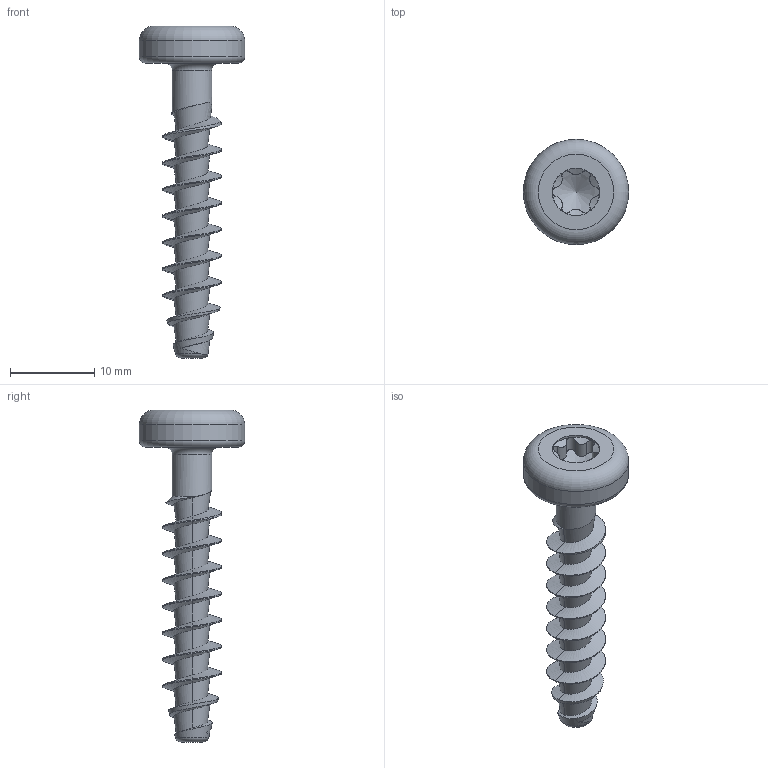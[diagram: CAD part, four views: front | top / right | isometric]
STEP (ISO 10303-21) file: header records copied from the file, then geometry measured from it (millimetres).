
FILE_DESCRIPTION(/* description */ (''),/* implementation_level */ '2;1');
FILE_NAME(/* name */ 'KN1039-STS-70x35-T30.step',/* time_stamp */ '2017-10-17T13:46:06+02:00',/* author */ (''),/* organization */ (''),/* preprocessor_version */ 'ST-DEVELOPER v16',/* originating_system */ 'SIEMENS PLM Software NX 10.0',/* authorisation */ '');
FILE_SCHEMA (('AUTOMOTIVE_DESIGN { 1 0 10303 214 3 1 1 1 }'));
Length unit declared in the file: millimetre
Products named in the file (1): KN1039-STS-70x35-T30
Bounding box: 12.5 x 12.5 x 39.4 mm (x, y, z)
Volume: 1034.9 mm3; surface area: 1217.4 mm2
Topology: 1 solids, 1 shells, 57 faces, 141 edges, 87 vertices
Faces by surface type: bspline 30, cylinder 16, cone 4, torus 4, plane 3
Full cylindrical faces by diameter (mm): 4.71 x1, 5.62 x1, 12.5 x1
Entity records: 4249 total; most frequent: CARTESIAN_POINT 3184, ORIENTED_EDGE 252, EDGE_CURVE 126, DIRECTION 121, VERTEX_POINT 82, B_SPLINE_CURVE_WITH_KNOTS 74, EDGE_LOOP 67, ADVANCED_FACE 57
